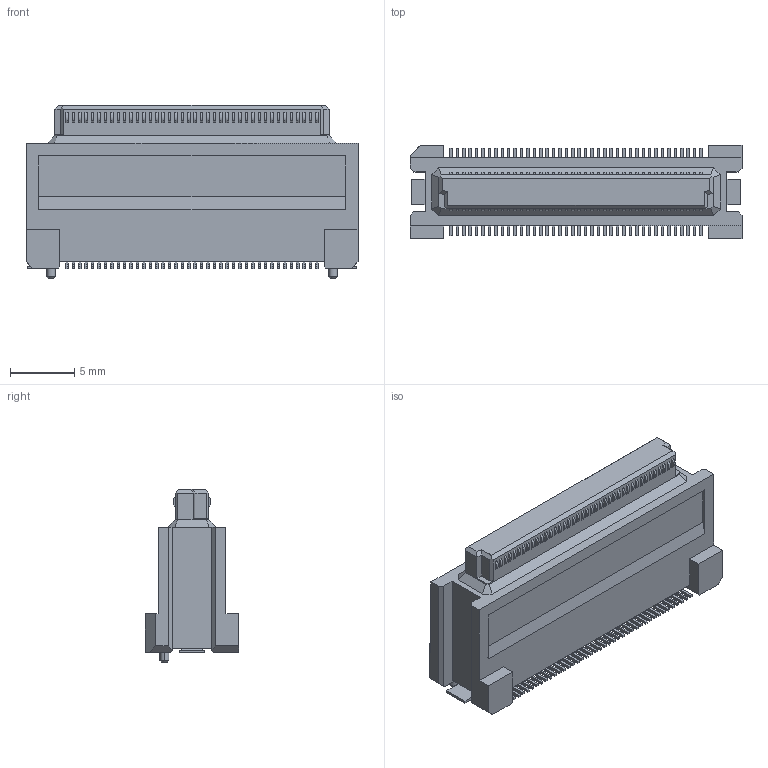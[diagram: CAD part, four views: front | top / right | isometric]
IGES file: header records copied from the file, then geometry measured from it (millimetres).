
Start section: Elysium IGES Interface
Global section: file name: C:\Users\1354\Desktop\DY11-080FS-4.igs; native system: Creo Elements/Direct Modeling 19.0F  14-Feb-2017; preprocessor: Creo Element/Direct IGES_3D V2.2; author: Unknown; organization: Unknown; date: 20171127.163833; units: millimetre
Bounding box: 25.9 x 7.3 x 13.5 mm (x, y, z)
Volume: 1313.6 mm3; surface area: 1229.7 mm2
Topology: 1 solids, 1 shells, 1200 faces, 3293 edges, 2182 vertices
Faces by surface type: bspline 1200
